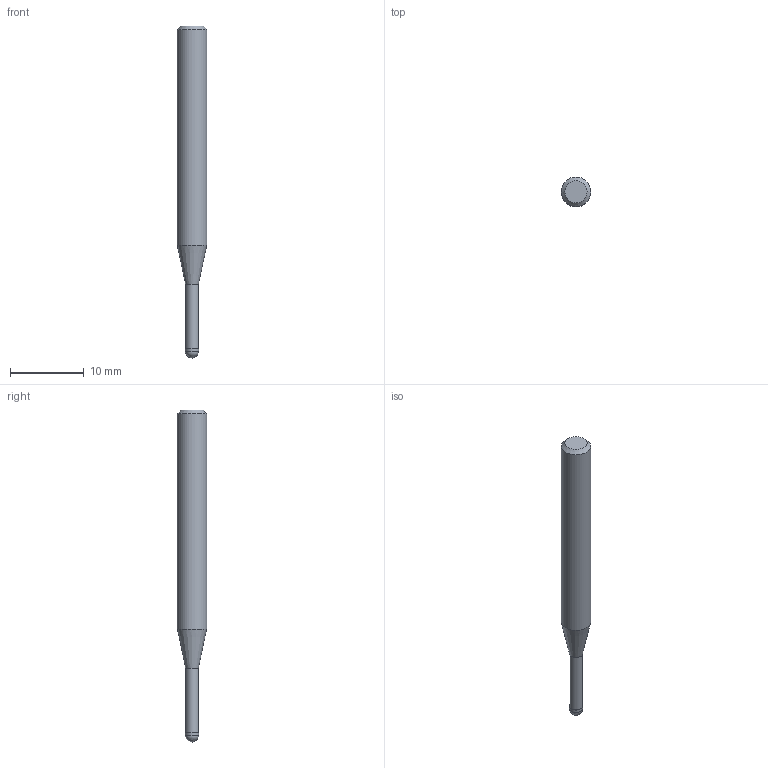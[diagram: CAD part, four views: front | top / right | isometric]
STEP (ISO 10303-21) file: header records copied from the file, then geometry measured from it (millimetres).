
FILE_DESCRIPTION((''),'2;1');
FILE_NAME('C:\Users\nsx150\AppData\Local\Temp\Mastercam 2021\ARV7HD45SN\TEMP.step','2023-06-13T16:37:01',(''),(''),'STEP Write','Mastercam 2021 ... CNC Software, Inc.','');
FILE_SCHEMA(('AUTOMOTIVE_DESIGN'));
Length unit declared in the file: millimetre
Products named in the file (1): None
Bounding box: 4 x 4 x 45 mm (x, y, z)
Volume: 431 mm3; surface area: 490.4 mm2
Topology: 2 solids, 2 shells, 9 faces, 14 edges, 8 vertices
Faces by surface type: plane 3, cylinder 3, cone 2, sphere 1
Full cylindrical faces by diameter (mm): 1.74 x1, 1.8 x1, 4 x1
Entity records: 211 total; most frequent: DIRECTION 36, CARTESIAN_POINT 25, AXIS2_PLACEMENT_3D 18, ORIENTED_EDGE 14, EDGE_LOOP 14, STYLED_ITEM 12, ADVANCED_FACE 9, FACE_BOUND 8
